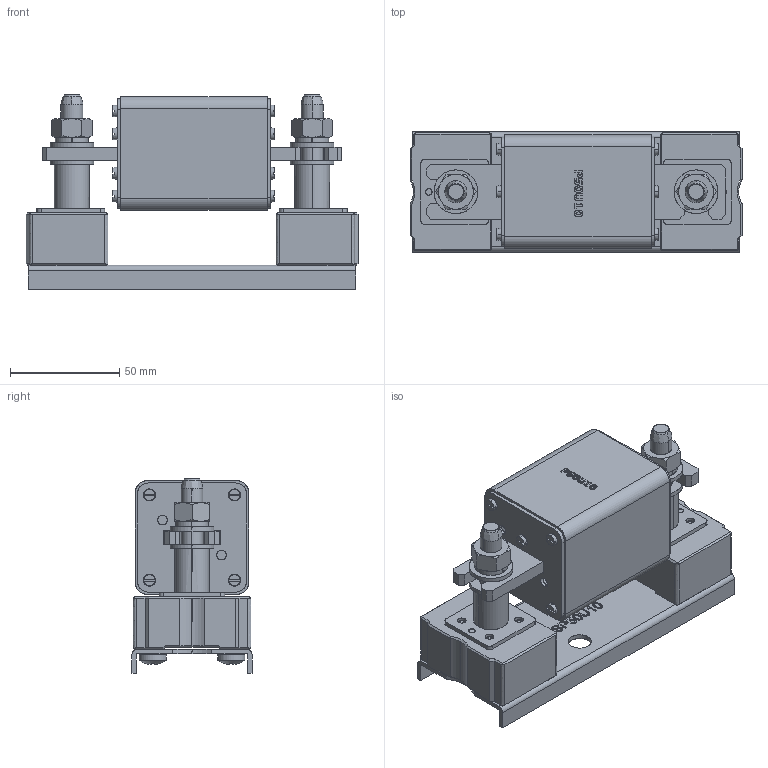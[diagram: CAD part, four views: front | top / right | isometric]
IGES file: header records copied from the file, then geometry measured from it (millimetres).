
Start section: SolidWorks IGES file using analytic representation for surfaces
Global section: file name: U:\14_RD\05_Technical_office\04_Office\Hrdinova\3D modely - IGES\Varius - Ostatní\SP50U10__P50U10.IGS; native system: SolidWorks 2011; preprocessor: SolidWorks 2011; author: adhrja3; date: 170620.142552; units: millimetre
Bounding box: 152 x 55 x 89.2 mm (x, y, z)
Surface area: 102183.8 mm2 (no closed solid volume)
Topology: 0 solids, 0 shells, 1234 faces, 16323 edges, 16299 vertices
Faces by surface type: bspline 710, revolution 524
